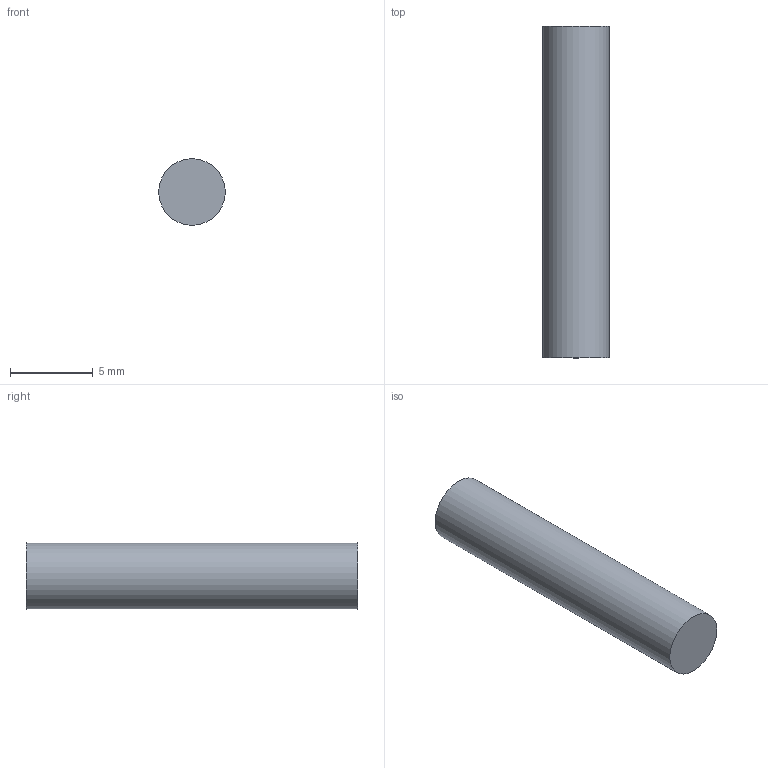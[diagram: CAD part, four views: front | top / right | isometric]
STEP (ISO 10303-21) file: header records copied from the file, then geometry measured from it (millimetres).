
FILE_DESCRIPTION(/* description */ (''),/* implementation_level */ '2;1');
FILE_NAME(/* name */ 'pin chwytak I.step',/* time_stamp */ '2026-03-04T15:17:23+01:00',/* author */ (''),/* organization */ (''),/* preprocessor_version */ 'ST-DEVELOPER v20.1',/* originating_system */ 'Autodesk Translation Framework v14.24.0.0',/* authorisation */ '');
FILE_SCHEMA (('AUTOMOTIVE_DESIGN { 1 0 10303 214 3 1 1 }'));
Length unit declared in the file: millimetre
Products named in the file (1): pin chwytak I
Bounding box: 3.98 x 20 x 3.98 mm (x, y, z)
Volume: 251.3 mm3; surface area: 276.5 mm2
Topology: 1 solids, 1 shells, 3 faces, 3 edges, 2 vertices
Faces by surface type: plane 2, cylinder 1
Full cylindrical faces by diameter (mm): 4 x1
Entity records: 92 total; most frequent: DIRECTION 13, CARTESIAN_POINT 9, ORIENTED_EDGE 6, AXIS2_PLACEMENT_3D 6, FACE_OUTER_BOUND 3, EDGE_LOOP 3, EDGE_CURVE 3, ADVANCED_FACE 3
